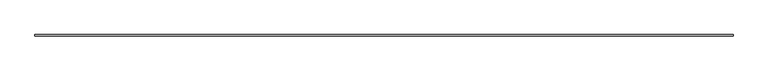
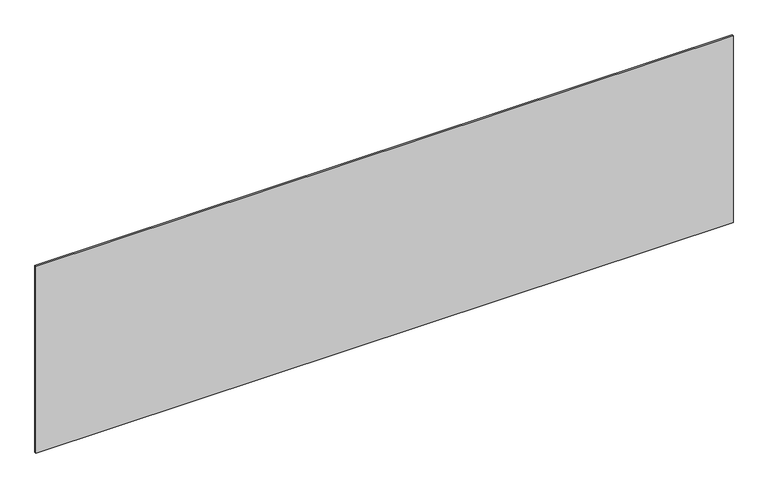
"""IFC4 building model written with IfcOpenShell, lengths in millimetres: plate geometry, システム パネル : 標準."""

from ifc_helpers import new_model, si_unit, origin, origin_with_axes, place, context, project, spatial, polyline, outline, extrude, source, transform, mapped, element, save


def plate_0d44b53b(model_context):
    return source(origin(), model_context, "Body", "SweptSolid", [
        extrude(outline(polyline([(2281.6666667, -5.0), (-2281.6666667, -5.0), (-2281.6666667, 5.0), (2281.6666667, 5.0), (2281.6666667, -5.0)])), origin_with_axes(), (0.0, 0.0, 1.0), 1292.4387729),
    ])


if __name__ == "__main__":
    model = new_model("IFC4")
    model_context = context("Model", 3, world=origin())
    ifc_project = project(units=[si_unit("LENGTHUNIT", "METRE", prefix="MILLI")], contexts=[model_context])
    site = spatial("IfcSite", under=ifc_project)
    building = spatial("IfcBuilding", under=site)
    placement = place(None, origin())
    plate_shape = plate_0d44b53b(model_context)
    element("IfcPlate", 1, ObjectType="システム パネル : 標準", at=placement, inside=building, context=model_context, shape_type="MappedRepresentation", body=[
        mapped(plate_shape, transform((0.0, 0.0, 0.0), x_axis=(1.0, 0.0, 0.0), y_axis=(0.0, 1.0, 0.0), z_axis=(0.0, 0.0, 1.0))),
    ])
    save(model, "model.ifc")
